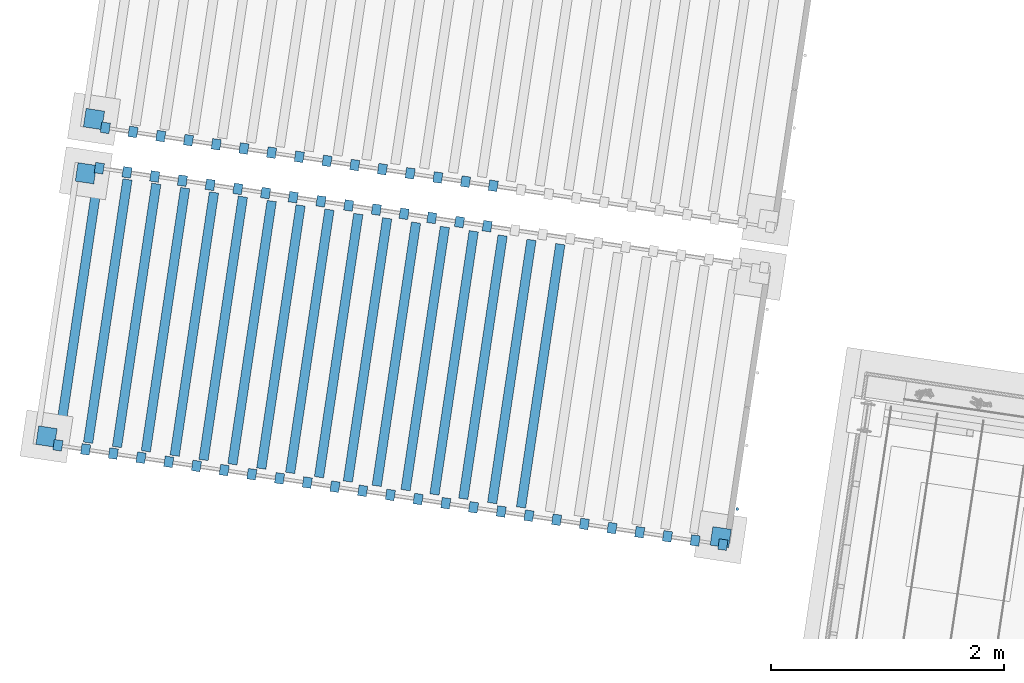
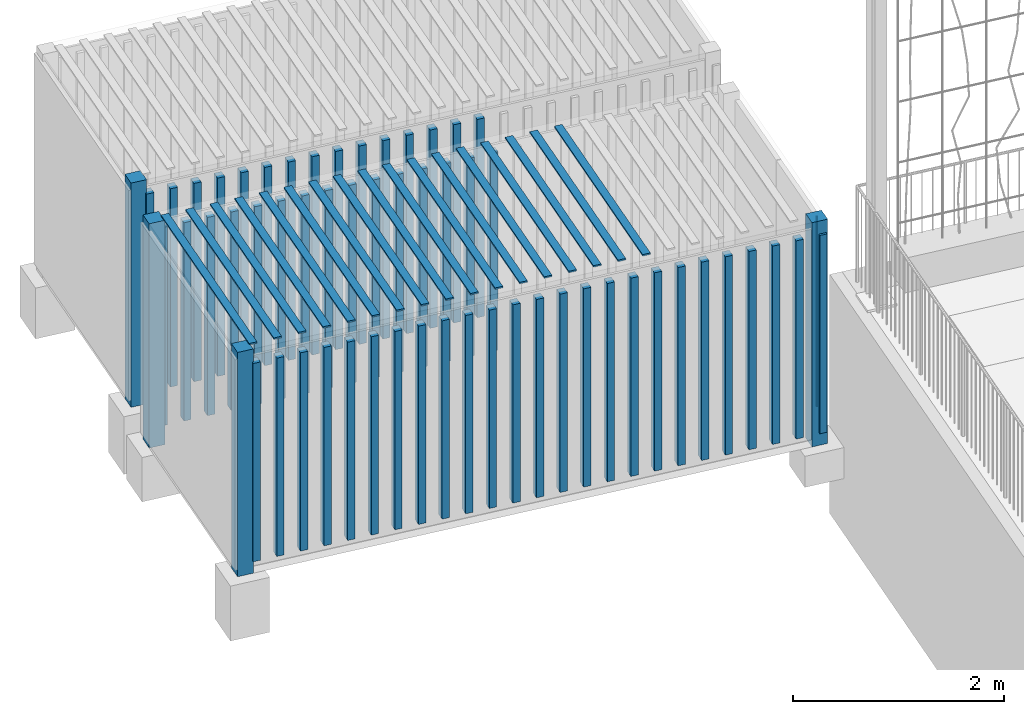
# One storey, part 25 of 142: 77 members, 2 elements without a shape of their own.
"""IFC4 building model written with IfcOpenShell, lengths in metres."""

from ifc_helpers import new_model, si_unit, direction, frame, origin_with_axes, place, context, subcontext, project, spatial, polyline, circle, outline, extrude, material, material_profile, profile_set, profile_usage, type_object, element, aggregate, save


model = new_model("IFC4")

# Units and contexts
model_context = context("Model", 3, precision=1e-05, world=origin_with_axes(), true_north=direction((0.0, 1.0)))
body_context = subcontext(model_context, "Body", "Model", "MODEL_VIEW")
ifc_project = project(units=[si_unit("VOLUMEUNIT", "CUBIC_METRE"), si_unit("LENGTHUNIT", "METRE"), si_unit("AREAUNIT", "SQUARE_METRE")], contexts=[model_context])

# Site, building, storey
site_placement = place(None, origin_with_axes())
site = spatial("IfcSite", under=ifc_project, at=site_placement, Name="Lares · Rua das Mercês · artigo 4771")
building_placement = place(site_placement, frame((12.0, 10.2, 13.9), z_axis=(0.0, 0.0, 1.0), x_axis=(0.989015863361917, -0.147809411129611, 0.0)))
building = spatial("IfcBuilding", under=site, at=building_placement, Name="Casa Sobreposta")
storey_placement = place(building_placement, origin_with_axes())
storey = spatial("IfcBuildingStorey", under=building, at=storey_placement, Name="00 · Habitação e estacionamento", Elevation=13.9)

# Assembly, members
assembly_1_placement = place(storey_placement, origin_with_axes())
assembly_1 = element("IfcElementAssembly", 1, at=assembly_1_placement, inside=storey, ObjectType="EXISTING_SHIPPING_CONTAINER", PredefinedType="USERDEFINED")
ifc_material_1 = material(Name="Aço galvanizado / Stahl verzinkt", Category="steel")
ifc_material_profile = material_profile(ifc_material_1, circle(Radius=0.0125))
ifc_profile_set = profile_set([ifc_material_profile], Name="D0.025")
ifc_profile_usage = profile_usage(ifc_profile_set)
member_type = type_object("IfcMemberType", Name="D0.025 / galvanized", PredefinedType="NOTDEFINED", material=ifc_profile_set)
member_1_placement = place(assembly_1_placement, frame((-6.975, 5.34, -0.394226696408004), z_axis=(0.0, 0.0, 1.0), x_axis=(1.0, 0.0, 0.0)))
member_1 = element("IfcMember", 2, at=member_1_placement, type_object=member_type, material=ifc_profile_usage, Name="Contentor · varão de fecho", context=body_context, shape_type="SweptSolid", body=[
    extrude(circle(Radius=0.0125), origin_with_axes(), (0.0, 0.0, 1.0), 2.2),
])
ifc_material_2 = material(Name="Contentor · pintura 1", Category="steel")
member_2_placement = place(assembly_1_placement, frame((0.0, 0.0, -0.594226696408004), z_axis=(0.0, 0.0, 1.0), x_axis=(1.0, 0.0, 0.0)))
member_2 = element("IfcMember", 3, at=member_2_placement, material=ifc_material_2, Name="Contentor · canto", context=body_context, shape_type="SweptSolid", body=[
    extrude(outline(polyline([(-12.84, 5.0), (-12.84, 5.16), (-13.0, 5.16), (-13.0, 5.0), (-12.84, 5.0)])), origin_with_axes(), (0.0, 0.0, 1.0), 2.59),
])
member_3_placement = place(assembly_1_placement, frame((0.0, 0.0, -0.594226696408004), z_axis=(0.0, 0.0, 1.0), x_axis=(1.0, 0.0, 0.0)))
member_3 = element("IfcMember", 4, at=member_3_placement, material=ifc_material_2, Name="Contentor · canto", context=body_context, shape_type="SweptSolid", body=[
    extrude(outline(polyline([(-12.84, 7.28), (-12.84, 7.44), (-13.0, 7.44), (-13.0, 7.28), (-12.84, 7.28)])), origin_with_axes(), (0.0, 0.0, 1.0), 2.59),
])
member_4_placement = place(assembly_1_placement, frame((0.0, 0.0, -0.594226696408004), z_axis=(0.0, 0.0, 1.0), x_axis=(1.0, 0.0, 0.0)))
member_4 = element("IfcMember", 5, at=member_4_placement, material=ifc_material_2, Name="Contentor · canto", context=body_context, shape_type="SweptSolid", body=[
    extrude(outline(polyline([(-7.0, 5.0), (-7.0, 5.16), (-7.16, 5.16), (-7.16, 5.0), (-7.0, 5.0)])), origin_with_axes(), (0.0, 0.0, 1.0), 2.59),
])
member_5_placement = place(assembly_1_placement, frame((0.0, 0.0, -0.444226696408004), z_axis=(0.0, 0.0, 1.0), x_axis=(1.0, 0.0, 0.0)))
member_5 = element("IfcMember", 6, at=member_5_placement, material=ifc_material_2, Name="Contentor · nervura lateral", context=body_context, shape_type="SweptSolid", body=[
    extrude(outline(polyline([(-12.775, 4.975), (-12.775, 5.065), (-12.85, 5.065), (-12.85, 4.975), (-12.775, 4.975)])), origin_with_axes(), (0.0, 0.0, 1.0), 2.29),
])
member_6_placement = place(assembly_1_placement, frame((0.0, 0.0, -0.444226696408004), z_axis=(0.0, 0.0, 1.0), x_axis=(1.0, 0.0, 0.0)))
member_6 = element("IfcMember", 7, at=member_6_placement, material=ifc_material_2, Name="Contentor · nervura lateral", context=body_context, shape_type="SweptSolid", body=[
    extrude(outline(polyline([(-12.535, 4.975), (-12.535, 5.065), (-12.61, 5.065), (-12.61, 4.975), (-12.535, 4.975)])), origin_with_axes(), (0.0, 0.0, 1.0), 2.29),
])
member_7_placement = place(assembly_1_placement, frame((0.0, 0.0, -0.444226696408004), z_axis=(0.0, 0.0, 1.0), x_axis=(1.0, 0.0, 0.0)))
member_7 = element("IfcMember", 8, at=member_7_placement, material=ifc_material_2, Name="Contentor · nervura lateral", context=body_context, shape_type="SweptSolid", body=[
    extrude(outline(polyline([(-12.295, 4.975), (-12.295, 5.065), (-12.37, 5.065), (-12.37, 4.975), (-12.295, 4.975)])), origin_with_axes(), (0.0, 0.0, 1.0), 2.29),
])
member_8_placement = place(assembly_1_placement, frame((0.0, 0.0, -0.444226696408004), z_axis=(0.0, 0.0, 1.0), x_axis=(1.0, 0.0, 0.0)))
member_8 = element("IfcMember", 9, at=member_8_placement, material=ifc_material_2, Name="Contentor · nervura lateral", context=body_context, shape_type="SweptSolid", body=[
    extrude(outline(polyline([(-12.055, 4.975), (-12.055, 5.065), (-12.13, 5.065), (-12.13, 4.975), (-12.055, 4.975)])), origin_with_axes(), (0.0, 0.0, 1.0), 2.29),
])
member_9_placement = place(assembly_1_placement, frame((0.0, 0.0, -0.444226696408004), z_axis=(0.0, 0.0, 1.0), x_axis=(1.0, 0.0, 0.0)))
member_9 = element("IfcMember", 10, at=member_9_placement, material=ifc_material_2, Name="Contentor · nervura lateral", context=body_context, shape_type="SweptSolid", body=[
    extrude(outline(polyline([(-11.815, 4.975), (-11.815, 5.065), (-11.89, 5.065), (-11.89, 4.975), (-11.815, 4.975)])), origin_with_axes(), (0.0, 0.0, 1.0), 2.29),
])
member_10_placement = place(assembly_1_placement, frame((0.0, 0.0, -0.444226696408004), z_axis=(0.0, 0.0, 1.0), x_axis=(1.0, 0.0, 0.0)))
member_10 = element("IfcMember", 11, at=member_10_placement, material=ifc_material_2, Name="Contentor · nervura lateral", context=body_context, shape_type="SweptSolid", body=[
    extrude(outline(polyline([(-11.575, 4.975), (-11.575, 5.065), (-11.65, 5.065), (-11.65, 4.975), (-11.575, 4.975)])), origin_with_axes(), (0.0, 0.0, 1.0), 2.29),
])
member_11_placement = place(assembly_1_placement, frame((0.0, 0.0, -0.444226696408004), z_axis=(0.0, 0.0, 1.0), x_axis=(1.0, 0.0, 0.0)))
member_11 = element("IfcMember", 12, at=member_11_placement, material=ifc_material_2, Name="Contentor · nervura lateral", context=body_context, shape_type="SweptSolid", body=[
    extrude(outline(polyline([(-11.335, 4.975), (-11.335, 5.065), (-11.41, 5.065), (-11.41, 4.975), (-11.335, 4.975)])), origin_with_axes(), (0.0, 0.0, 1.0), 2.29),
])
member_12_placement = place(assembly_1_placement, frame((0.0, 0.0, -0.444226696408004), z_axis=(0.0, 0.0, 1.0), x_axis=(1.0, 0.0, 0.0)))
member_12 = element("IfcMember", 13, at=member_12_placement, material=ifc_material_2, Name="Contentor · nervura lateral", context=body_context, shape_type="SweptSolid", body=[
    extrude(outline(polyline([(-11.095, 4.975), (-11.095, 5.065), (-11.17, 5.065), (-11.17, 4.975), (-11.095, 4.975)])), origin_with_axes(), (0.0, 0.0, 1.0), 2.29),
])
member_13_placement = place(assembly_1_placement, frame((0.0, 0.0, -0.444226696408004), z_axis=(0.0, 0.0, 1.0), x_axis=(1.0, 0.0, 0.0)))
member_13 = element("IfcMember", 14, at=member_13_placement, material=ifc_material_2, Name="Contentor · nervura lateral", context=body_context, shape_type="SweptSolid", body=[
    extrude(outline(polyline([(-10.855, 4.975), (-10.855, 5.065), (-10.93, 5.065), (-10.93, 4.975), (-10.855, 4.975)])), origin_with_axes(), (0.0, 0.0, 1.0), 2.29),
])
member_14_placement = place(assembly_1_placement, frame((0.0, 0.0, -0.444226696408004), z_axis=(0.0, 0.0, 1.0), x_axis=(1.0, 0.0, 0.0)))
member_14 = element("IfcMember", 15, at=member_14_placement, material=ifc_material_2, Name="Contentor · nervura lateral", context=body_context, shape_type="SweptSolid", body=[
    extrude(outline(polyline([(-10.615, 4.975), (-10.615, 5.065), (-10.69, 5.065), (-10.69, 4.975), (-10.615, 4.975)])), origin_with_axes(), (0.0, 0.0, 1.0), 2.29),
])
member_15_placement = place(assembly_1_placement, frame((0.0, 0.0, -0.444226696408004), z_axis=(0.0, 0.0, 1.0), x_axis=(1.0, 0.0, 0.0)))
member_15 = element("IfcMember", 16, at=member_15_placement, material=ifc_material_2, Name="Contentor · nervura lateral", context=body_context, shape_type="SweptSolid", body=[
    extrude(outline(polyline([(-10.375, 4.975), (-10.375, 5.065), (-10.45, 5.065), (-10.45, 4.975), (-10.375, 4.975)])), origin_with_axes(), (0.0, 0.0, 1.0), 2.29),
])
member_16_placement = place(assembly_1_placement, frame((0.0, 0.0, -0.444226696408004), z_axis=(0.0, 0.0, 1.0), x_axis=(1.0, 0.0, 0.0)))
member_16 = element("IfcMember", 17, at=member_16_placement, material=ifc_material_2, Name="Contentor · nervura lateral", context=body_context, shape_type="SweptSolid", body=[
    extrude(outline(polyline([(-10.135, 4.975), (-10.135, 5.065), (-10.21, 5.065), (-10.21, 4.975), (-10.135, 4.975)])), origin_with_axes(), (0.0, 0.0, 1.0), 2.29),
])
member_17_placement = place(assembly_1_placement, frame((0.0, 0.0, -0.444226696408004), z_axis=(0.0, 0.0, 1.0), x_axis=(1.0, 0.0, 0.0)))
member_17 = element("IfcMember", 18, at=member_17_placement, material=ifc_material_2, Name="Contentor · nervura lateral", context=body_context, shape_type="SweptSolid", body=[
    extrude(outline(polyline([(-9.895, 4.975), (-9.895, 5.065), (-9.97, 5.065), (-9.97, 4.975), (-9.895, 4.975)])), origin_with_axes(), (0.0, 0.0, 1.0), 2.29),
])
member_18_placement = place(assembly_1_placement, frame((0.0, 0.0, -0.444226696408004), z_axis=(0.0, 0.0, 1.0), x_axis=(1.0, 0.0, 0.0)))
member_18 = element("IfcMember", 19, at=member_18_placement, material=ifc_material_2, Name="Contentor · nervura lateral", context=body_context, shape_type="SweptSolid", body=[
    extrude(outline(polyline([(-9.655, 4.975), (-9.655, 5.065), (-9.73, 5.065), (-9.73, 4.975), (-9.655, 4.975)])), origin_with_axes(), (0.0, 0.0, 1.0), 2.29),
])
member_19_placement = place(assembly_1_placement, frame((0.0, 0.0, -0.444226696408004), z_axis=(0.0, 0.0, 1.0), x_axis=(1.0, 0.0, 0.0)))
member_19 = element("IfcMember", 20, at=member_19_placement, material=ifc_material_2, Name="Contentor · nervura lateral", context=body_context, shape_type="SweptSolid", body=[
    extrude(outline(polyline([(-9.415, 4.975), (-9.415, 5.065), (-9.49, 5.065), (-9.49, 4.975), (-9.415, 4.975)])), origin_with_axes(), (0.0, 0.0, 1.0), 2.29),
])
member_20_placement = place(assembly_1_placement, frame((0.0, 0.0, -0.444226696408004), z_axis=(0.0, 0.0, 1.0), x_axis=(1.0, 0.0, 0.0)))
member_20 = element("IfcMember", 21, at=member_20_placement, material=ifc_material_2, Name="Contentor · nervura lateral", context=body_context, shape_type="SweptSolid", body=[
    extrude(outline(polyline([(-9.175, 4.975), (-9.175, 5.065), (-9.25, 5.065), (-9.25, 4.975), (-9.175, 4.975)])), origin_with_axes(), (0.0, 0.0, 1.0), 2.29),
])
member_21_placement = place(assembly_1_placement, frame((0.0, 0.0, -0.444226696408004), z_axis=(0.0, 0.0, 1.0), x_axis=(1.0, 0.0, 0.0)))
member_21 = element("IfcMember", 22, at=member_21_placement, material=ifc_material_2, Name="Contentor · nervura lateral", context=body_context, shape_type="SweptSolid", body=[
    extrude(outline(polyline([(-8.935, 4.975), (-8.935, 5.065), (-9.01, 5.065), (-9.01, 4.975), (-8.935, 4.975)])), origin_with_axes(), (0.0, 0.0, 1.0), 2.29),
])
member_22_placement = place(assembly_1_placement, frame((0.0, 0.0, -0.444226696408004), z_axis=(0.0, 0.0, 1.0), x_axis=(1.0, 0.0, 0.0)))
member_22 = element("IfcMember", 23, at=member_22_placement, material=ifc_material_2, Name="Contentor · nervura lateral", context=body_context, shape_type="SweptSolid", body=[
    extrude(outline(polyline([(-8.695, 4.975), (-8.695, 5.065), (-8.77, 5.065), (-8.77, 4.975), (-8.695, 4.975)])), origin_with_axes(), (0.0, 0.0, 1.0), 2.29),
])
member_23_placement = place(assembly_1_placement, frame((0.0, 0.0, -0.444226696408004), z_axis=(0.0, 0.0, 1.0), x_axis=(1.0, 0.0, 0.0)))
member_23 = element("IfcMember", 24, at=member_23_placement, material=ifc_material_2, Name="Contentor · nervura lateral", context=body_context, shape_type="SweptSolid", body=[
    extrude(outline(polyline([(-8.455, 4.975), (-8.455, 5.065), (-8.53, 5.065), (-8.53, 4.975), (-8.455, 4.975)])), origin_with_axes(), (0.0, 0.0, 1.0), 2.29),
])
member_24_placement = place(assembly_1_placement, frame((0.0, 0.0, -0.444226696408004), z_axis=(0.0, 0.0, 1.0), x_axis=(1.0, 0.0, 0.0)))
member_24 = element("IfcMember", 25, at=member_24_placement, material=ifc_material_2, Name="Contentor · nervura lateral", context=body_context, shape_type="SweptSolid", body=[
    extrude(outline(polyline([(-8.215, 4.975), (-8.215, 5.065), (-8.29, 5.065), (-8.29, 4.975), (-8.215, 4.975)])), origin_with_axes(), (0.0, 0.0, 1.0), 2.29),
])
member_25_placement = place(assembly_1_placement, frame((0.0, 0.0, -0.444226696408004), z_axis=(0.0, 0.0, 1.0), x_axis=(1.0, 0.0, 0.0)))
member_25 = element("IfcMember", 26, at=member_25_placement, material=ifc_material_2, Name="Contentor · nervura lateral", context=body_context, shape_type="SweptSolid", body=[
    extrude(outline(polyline([(-7.975, 4.975), (-7.975, 5.065), (-8.05, 5.065), (-8.05, 4.975), (-7.975, 4.975)])), origin_with_axes(), (0.0, 0.0, 1.0), 2.29),
])
member_26_placement = place(assembly_1_placement, frame((0.0, 0.0, -0.444226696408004), z_axis=(0.0, 0.0, 1.0), x_axis=(1.0, 0.0, 0.0)))
member_26 = element("IfcMember", 27, at=member_26_placement, material=ifc_material_2, Name="Contentor · nervura lateral", context=body_context, shape_type="SweptSolid", body=[
    extrude(outline(polyline([(-7.73499999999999, 4.975), (-7.73499999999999, 5.065), (-7.81, 5.065), (-7.81, 4.975), (-7.73499999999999, 4.975)])), origin_with_axes(), (0.0, 0.0, 1.0), 2.29),
])
member_27_placement = place(assembly_1_placement, frame((0.0, 0.0, -0.444226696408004), z_axis=(0.0, 0.0, 1.0), x_axis=(1.0, 0.0, 0.0)))
member_27 = element("IfcMember", 28, at=member_27_placement, material=ifc_material_2, Name="Contentor · nervura lateral", context=body_context, shape_type="SweptSolid", body=[
    extrude(outline(polyline([(-7.49499999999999, 4.975), (-7.49499999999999, 5.065), (-7.56999999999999, 5.065), (-7.56999999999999, 4.975), (-7.49499999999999, 4.975)])), origin_with_axes(), (0.0, 0.0, 1.0), 2.29),
])
member_28_placement = place(assembly_1_placement, frame((0.0, 0.0, -0.444226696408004), z_axis=(0.0, 0.0, 1.0), x_axis=(1.0, 0.0, 0.0)))
member_28 = element("IfcMember", 29, at=member_28_placement, material=ifc_material_2, Name="Contentor · nervura lateral", context=body_context, shape_type="SweptSolid", body=[
    extrude(outline(polyline([(-7.25499999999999, 4.975), (-7.25499999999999, 5.065), (-7.32999999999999, 5.065), (-7.32999999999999, 4.975), (-7.25499999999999, 4.975)])), origin_with_axes(), (0.0, 0.0, 1.0), 2.29),
])
member_29_placement = place(assembly_1_placement, frame((0.0, 0.0, -0.444226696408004), z_axis=(0.0, 0.0, 1.0), x_axis=(1.0, 0.0, 0.0)))
member_29 = element("IfcMember", 30, at=member_29_placement, material=ifc_material_2, Name="Contentor · nervura lateral", context=body_context, shape_type="SweptSolid", body=[
    extrude(outline(polyline([(-7.01499999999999, 4.975), (-7.01499999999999, 5.065), (-7.08999999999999, 5.065), (-7.08999999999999, 4.975), (-7.01499999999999, 4.975)])), origin_with_axes(), (0.0, 0.0, 1.0), 2.29),
])
member_30_placement = place(assembly_1_placement, frame((0.0, 0.0, -0.444226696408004), z_axis=(0.0, 0.0, 1.0), x_axis=(1.0, 0.0, 0.0)))
member_30 = element("IfcMember", 31, at=member_30_placement, material=ifc_material_2, Name="Contentor · nervura lateral", context=body_context, shape_type="SweptSolid", body=[
    extrude(outline(polyline([(-12.775, 7.375), (-12.775, 7.465), (-12.85, 7.465), (-12.85, 7.375), (-12.775, 7.375)])), origin_with_axes(), (0.0, 0.0, 1.0), 2.29),
])
member_31_placement = place(assembly_1_placement, frame((0.0, 0.0, -0.444226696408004), z_axis=(0.0, 0.0, 1.0), x_axis=(1.0, 0.0, 0.0)))
member_31 = element("IfcMember", 32, at=member_31_placement, material=ifc_material_2, Name="Contentor · nervura lateral", context=body_context, shape_type="SweptSolid", body=[
    extrude(outline(polyline([(-12.535, 7.375), (-12.535, 7.465), (-12.61, 7.465), (-12.61, 7.375), (-12.535, 7.375)])), origin_with_axes(), (0.0, 0.0, 1.0), 2.29),
])
member_32_placement = place(assembly_1_placement, frame((0.0, 0.0, -0.444226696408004), z_axis=(0.0, 0.0, 1.0), x_axis=(1.0, 0.0, 0.0)))
member_32 = element("IfcMember", 33, at=member_32_placement, material=ifc_material_2, Name="Contentor · nervura lateral", context=body_context, shape_type="SweptSolid", body=[
    extrude(outline(polyline([(-12.295, 7.375), (-12.295, 7.465), (-12.37, 7.465), (-12.37, 7.375), (-12.295, 7.375)])), origin_with_axes(), (0.0, 0.0, 1.0), 2.29),
])
member_33_placement = place(assembly_1_placement, frame((0.0, 0.0, -0.444226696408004), z_axis=(0.0, 0.0, 1.0), x_axis=(1.0, 0.0, 0.0)))
member_33 = element("IfcMember", 34, at=member_33_placement, material=ifc_material_2, Name="Contentor · nervura lateral", context=body_context, shape_type="SweptSolid", body=[
    extrude(outline(polyline([(-12.055, 7.375), (-12.055, 7.465), (-12.13, 7.465), (-12.13, 7.375), (-12.055, 7.375)])), origin_with_axes(), (0.0, 0.0, 1.0), 2.29),
])
member_34_placement = place(assembly_1_placement, frame((0.0, 0.0, -0.444226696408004), z_axis=(0.0, 0.0, 1.0), x_axis=(1.0, 0.0, 0.0)))
member_34 = element("IfcMember", 35, at=member_34_placement, material=ifc_material_2, Name="Contentor · nervura lateral", context=body_context, shape_type="SweptSolid", body=[
    extrude(outline(polyline([(-11.815, 7.375), (-11.815, 7.465), (-11.89, 7.465), (-11.89, 7.375), (-11.815, 7.375)])), origin_with_axes(), (0.0, 0.0, 1.0), 2.29),
])
member_35_placement = place(assembly_1_placement, frame((0.0, 0.0, -0.444226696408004), z_axis=(0.0, 0.0, 1.0), x_axis=(1.0, 0.0, 0.0)))
member_35 = element("IfcMember", 36, at=member_35_placement, material=ifc_material_2, Name="Contentor · nervura lateral", context=body_context, shape_type="SweptSolid", body=[
    extrude(outline(polyline([(-11.575, 7.375), (-11.575, 7.465), (-11.65, 7.465), (-11.65, 7.375), (-11.575, 7.375)])), origin_with_axes(), (0.0, 0.0, 1.0), 2.29),
])
member_36_placement = place(assembly_1_placement, frame((0.0, 0.0, -0.444226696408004), z_axis=(0.0, 0.0, 1.0), x_axis=(1.0, 0.0, 0.0)))
member_36 = element("IfcMember", 37, at=member_36_placement, material=ifc_material_2, Name="Contentor · nervura lateral", context=body_context, shape_type="SweptSolid", body=[
    extrude(outline(polyline([(-11.335, 7.375), (-11.335, 7.465), (-11.41, 7.465), (-11.41, 7.375), (-11.335, 7.375)])), origin_with_axes(), (0.0, 0.0, 1.0), 2.29),
])
member_37_placement = place(assembly_1_placement, frame((0.0, 0.0, -0.444226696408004), z_axis=(0.0, 0.0, 1.0), x_axis=(1.0, 0.0, 0.0)))
member_37 = element("IfcMember", 38, at=member_37_placement, material=ifc_material_2, Name="Contentor · nervura lateral", context=body_context, shape_type="SweptSolid", body=[
    extrude(outline(polyline([(-11.095, 7.375), (-11.095, 7.465), (-11.17, 7.465), (-11.17, 7.375), (-11.095, 7.375)])), origin_with_axes(), (0.0, 0.0, 1.0), 2.29),
])
member_38_placement = place(assembly_1_placement, frame((0.0, 0.0, -0.444226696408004), z_axis=(0.0, 0.0, 1.0), x_axis=(1.0, 0.0, 0.0)))
member_38 = element("IfcMember", 39, at=member_38_placement, material=ifc_material_2, Name="Contentor · nervura lateral", context=body_context, shape_type="SweptSolid", body=[
    extrude(outline(polyline([(-10.855, 7.375), (-10.855, 7.465), (-10.93, 7.465), (-10.93, 7.375), (-10.855, 7.375)])), origin_with_axes(), (0.0, 0.0, 1.0), 2.29),
])
member_39_placement = place(assembly_1_placement, frame((0.0, 0.0, -0.444226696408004), z_axis=(0.0, 0.0, 1.0), x_axis=(1.0, 0.0, 0.0)))
member_39 = element("IfcMember", 40, at=member_39_placement, material=ifc_material_2, Name="Contentor · nervura lateral", context=body_context, shape_type="SweptSolid", body=[
    extrude(outline(polyline([(-10.615, 7.375), (-10.615, 7.465), (-10.69, 7.465), (-10.69, 7.375), (-10.615, 7.375)])), origin_with_axes(), (0.0, 0.0, 1.0), 2.29),
])
member_40_placement = place(assembly_1_placement, frame((0.0, 0.0, -0.444226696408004), z_axis=(0.0, 0.0, 1.0), x_axis=(1.0, 0.0, 0.0)))
member_40 = element("IfcMember", 41, at=member_40_placement, material=ifc_material_2, Name="Contentor · nervura lateral", context=body_context, shape_type="SweptSolid", body=[
    extrude(outline(polyline([(-10.375, 7.375), (-10.375, 7.465), (-10.45, 7.465), (-10.45, 7.375), (-10.375, 7.375)])), origin_with_axes(), (0.0, 0.0, 1.0), 2.29),
])
member_41_placement = place(assembly_1_placement, frame((0.0, 0.0, -0.444226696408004), z_axis=(0.0, 0.0, 1.0), x_axis=(1.0, 0.0, 0.0)))
member_41 = element("IfcMember", 42, at=member_41_placement, material=ifc_material_2, Name="Contentor · nervura lateral", context=body_context, shape_type="SweptSolid", body=[
    extrude(outline(polyline([(-10.135, 7.375), (-10.135, 7.465), (-10.21, 7.465), (-10.21, 7.375), (-10.135, 7.375)])), origin_with_axes(), (0.0, 0.0, 1.0), 2.29),
])
member_42_placement = place(assembly_1_placement, frame((0.0, 0.0, -0.444226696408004), z_axis=(0.0, 0.0, 1.0), x_axis=(1.0, 0.0, 0.0)))
member_42 = element("IfcMember", 43, at=member_42_placement, material=ifc_material_2, Name="Contentor · nervura lateral", context=body_context, shape_type="SweptSolid", body=[
    extrude(outline(polyline([(-9.895, 7.375), (-9.895, 7.465), (-9.97, 7.465), (-9.97, 7.375), (-9.895, 7.375)])), origin_with_axes(), (0.0, 0.0, 1.0), 2.29),
])
member_43_placement = place(assembly_1_placement, frame((0.0, 0.0, -0.444226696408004), z_axis=(0.0, 0.0, 1.0), x_axis=(1.0, 0.0, 0.0)))
member_43 = element("IfcMember", 44, at=member_43_placement, material=ifc_material_2, Name="Contentor · nervura lateral", context=body_context, shape_type="SweptSolid", body=[
    extrude(outline(polyline([(-9.655, 7.375), (-9.655, 7.465), (-9.73, 7.465), (-9.73, 7.375), (-9.655, 7.375)])), origin_with_axes(), (0.0, 0.0, 1.0), 2.29),
])
member_44_placement = place(assembly_1_placement, frame((0.0, 0.0, -0.444226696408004), z_axis=(0.0, 0.0, 1.0), x_axis=(1.0, 0.0, 0.0)))
member_44 = element("IfcMember", 45, at=member_44_placement, material=ifc_material_2, Name="Contentor · nervura lateral", context=body_context, shape_type="SweptSolid", body=[
    extrude(outline(polyline([(-9.415, 7.375), (-9.415, 7.465), (-9.49, 7.465), (-9.49, 7.375), (-9.415, 7.375)])), origin_with_axes(), (0.0, 0.0, 1.0), 2.29),
])
member_45_placement = place(assembly_1_placement, frame((0.0, 0.0, 1.990773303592), z_axis=(0.0, 0.0, 1.0), x_axis=(1.0, 0.0, 0.0)))
member_45 = element("IfcMember", 46, at=member_45_placement, material=ifc_material_2, Name="Contentor · nervura cobertura", context=body_context, shape_type="SweptSolid", body=[
    extrude(outline(polyline([(-12.77, 5.08), (-12.77, 7.36), (-12.85, 7.36), (-12.85, 5.08), (-12.77, 5.08)])), origin_with_axes(), (0.0, 0.0, 1.0), 0.018),
])
member_46_placement = place(assembly_1_placement, frame((0.0, 0.0, 1.990773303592), z_axis=(0.0, 0.0, 1.0), x_axis=(1.0, 0.0, 0.0)))
member_46 = element("IfcMember", 47, at=member_46_placement, material=ifc_material_2, Name="Contentor · nervura cobertura", context=body_context, shape_type="SweptSolid", body=[
    extrude(outline(polyline([(-12.52, 5.08), (-12.52, 7.36), (-12.6, 7.36), (-12.6, 5.08), (-12.52, 5.08)])), origin_with_axes(), (0.0, 0.0, 1.0), 0.018),
])
member_47_placement = place(assembly_1_placement, frame((0.0, 0.0, 1.990773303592), z_axis=(0.0, 0.0, 1.0), x_axis=(1.0, 0.0, 0.0)))
member_47 = element("IfcMember", 48, at=member_47_placement, material=ifc_material_2, Name="Contentor · nervura cobertura", context=body_context, shape_type="SweptSolid", body=[
    extrude(outline(polyline([(-12.27, 5.08), (-12.27, 7.36), (-12.35, 7.36), (-12.35, 5.08), (-12.27, 5.08)])), origin_with_axes(), (0.0, 0.0, 1.0), 0.018),
])
member_48_placement = place(assembly_1_placement, frame((0.0, 0.0, 1.990773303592), z_axis=(0.0, 0.0, 1.0), x_axis=(1.0, 0.0, 0.0)))
member_48 = element("IfcMember", 49, at=member_48_placement, material=ifc_material_2, Name="Contentor · nervura cobertura", context=body_context, shape_type="SweptSolid", body=[
    extrude(outline(polyline([(-12.02, 5.08), (-12.02, 7.36), (-12.1, 7.36), (-12.1, 5.08), (-12.02, 5.08)])), origin_with_axes(), (0.0, 0.0, 1.0), 0.018),
])
member_49_placement = place(assembly_1_placement, frame((0.0, 0.0, 1.990773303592), z_axis=(0.0, 0.0, 1.0), x_axis=(1.0, 0.0, 0.0)))
member_49 = element("IfcMember", 50, at=member_49_placement, material=ifc_material_2, Name="Contentor · nervura cobertura", context=body_context, shape_type="SweptSolid", body=[
    extrude(outline(polyline([(-11.77, 5.08), (-11.77, 7.36), (-11.85, 7.36), (-11.85, 5.08), (-11.77, 5.08)])), origin_with_axes(), (0.0, 0.0, 1.0), 0.018),
])
member_50_placement = place(assembly_1_placement, frame((0.0, 0.0, 1.990773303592), z_axis=(0.0, 0.0, 1.0), x_axis=(1.0, 0.0, 0.0)))
member_50 = element("IfcMember", 51, at=member_50_placement, material=ifc_material_2, Name="Contentor · nervura cobertura", context=body_context, shape_type="SweptSolid", body=[
    extrude(outline(polyline([(-11.52, 5.08), (-11.52, 7.36), (-11.6, 7.36), (-11.6, 5.08), (-11.52, 5.08)])), origin_with_axes(), (0.0, 0.0, 1.0), 0.018),
])
member_51_placement = place(assembly_1_placement, frame((0.0, 0.0, 1.990773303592), z_axis=(0.0, 0.0, 1.0), x_axis=(1.0, 0.0, 0.0)))
member_51 = element("IfcMember", 52, at=member_51_placement, material=ifc_material_2, Name="Contentor · nervura cobertura", context=body_context, shape_type="SweptSolid", body=[
    extrude(outline(polyline([(-11.27, 5.08), (-11.27, 7.36), (-11.35, 7.36), (-11.35, 5.08), (-11.27, 5.08)])), origin_with_axes(), (0.0, 0.0, 1.0), 0.018),
])
member_52_placement = place(assembly_1_placement, frame((0.0, 0.0, 1.990773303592), z_axis=(0.0, 0.0, 1.0), x_axis=(1.0, 0.0, 0.0)))
member_52 = element("IfcMember", 53, at=member_52_placement, material=ifc_material_2, Name="Contentor · nervura cobertura", context=body_context, shape_type="SweptSolid", body=[
    extrude(outline(polyline([(-11.02, 5.08), (-11.02, 7.36), (-11.1, 7.36), (-11.1, 5.08), (-11.02, 5.08)])), origin_with_axes(), (0.0, 0.0, 1.0), 0.018),
])
member_53_placement = place(assembly_1_placement, frame((0.0, 0.0, 1.990773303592), z_axis=(0.0, 0.0, 1.0), x_axis=(1.0, 0.0, 0.0)))
member_53 = element("IfcMember", 54, at=member_53_placement, material=ifc_material_2, Name="Contentor · nervura cobertura", context=body_context, shape_type="SweptSolid", body=[
    extrude(outline(polyline([(-10.77, 5.08), (-10.77, 7.36), (-10.85, 7.36), (-10.85, 5.08), (-10.77, 5.08)])), origin_with_axes(), (0.0, 0.0, 1.0), 0.018),
])
member_54_placement = place(assembly_1_placement, frame((0.0, 0.0, 1.990773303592), z_axis=(0.0, 0.0, 1.0), x_axis=(1.0, 0.0, 0.0)))
member_54 = element("IfcMember", 55, at=member_54_placement, material=ifc_material_2, Name="Contentor · nervura cobertura", context=body_context, shape_type="SweptSolid", body=[
    extrude(outline(polyline([(-10.52, 5.08), (-10.52, 7.36), (-10.6, 7.36), (-10.6, 5.08), (-10.52, 5.08)])), origin_with_axes(), (0.0, 0.0, 1.0), 0.018),
])
member_55_placement = place(assembly_1_placement, frame((0.0, 0.0, 1.990773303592), z_axis=(0.0, 0.0, 1.0), x_axis=(1.0, 0.0, 0.0)))
member_55 = element("IfcMember", 56, at=member_55_placement, material=ifc_material_2, Name="Contentor · nervura cobertura", context=body_context, shape_type="SweptSolid", body=[
    extrude(outline(polyline([(-10.27, 5.08), (-10.27, 7.36), (-10.35, 7.36), (-10.35, 5.08), (-10.27, 5.08)])), origin_with_axes(), (0.0, 0.0, 1.0), 0.018),
])
member_56_placement = place(assembly_1_placement, frame((0.0, 0.0, 1.990773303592), z_axis=(0.0, 0.0, 1.0), x_axis=(1.0, 0.0, 0.0)))
member_56 = element("IfcMember", 57, at=member_56_placement, material=ifc_material_2, Name="Contentor · nervura cobertura", context=body_context, shape_type="SweptSolid", body=[
    extrude(outline(polyline([(-10.02, 5.08), (-10.02, 7.36), (-10.1, 7.36), (-10.1, 5.08), (-10.02, 5.08)])), origin_with_axes(), (0.0, 0.0, 1.0), 0.018),
])
member_57_placement = place(assembly_1_placement, frame((0.0, 0.0, 1.990773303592), z_axis=(0.0, 0.0, 1.0), x_axis=(1.0, 0.0, 0.0)))
member_57 = element("IfcMember", 58, at=member_57_placement, material=ifc_material_2, Name="Contentor · nervura cobertura", context=body_context, shape_type="SweptSolid", body=[
    extrude(outline(polyline([(-9.77, 5.08), (-9.77, 7.36), (-9.85, 7.36), (-9.85, 5.08), (-9.77, 5.08)])), origin_with_axes(), (0.0, 0.0, 1.0), 0.018),
])
member_58_placement = place(assembly_1_placement, frame((0.0, 0.0, 1.990773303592), z_axis=(0.0, 0.0, 1.0), x_axis=(1.0, 0.0, 0.0)))
member_58 = element("IfcMember", 59, at=member_58_placement, material=ifc_material_2, Name="Contentor · nervura cobertura", context=body_context, shape_type="SweptSolid", body=[
    extrude(outline(polyline([(-9.52, 5.08), (-9.52, 7.36), (-9.6, 7.36), (-9.6, 5.08), (-9.52, 5.08)])), origin_with_axes(), (0.0, 0.0, 1.0), 0.018),
])
member_59_placement = place(assembly_1_placement, frame((0.0, 0.0, 1.990773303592), z_axis=(0.0, 0.0, 1.0), x_axis=(1.0, 0.0, 0.0)))
member_59 = element("IfcMember", 60, at=member_59_placement, material=ifc_material_2, Name="Contentor · nervura cobertura", context=body_context, shape_type="SweptSolid", body=[
    extrude(outline(polyline([(-9.27, 5.08), (-9.27, 7.36), (-9.35, 7.36), (-9.35, 5.08), (-9.27, 5.08)])), origin_with_axes(), (0.0, 0.0, 1.0), 0.018),
])
member_60_placement = place(assembly_1_placement, frame((0.0, 0.0, 1.990773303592), z_axis=(0.0, 0.0, 1.0), x_axis=(1.0, 0.0, 0.0)))
member_60 = element("IfcMember", 61, at=member_60_placement, material=ifc_material_2, Name="Contentor · nervura cobertura", context=body_context, shape_type="SweptSolid", body=[
    extrude(outline(polyline([(-9.02, 5.08), (-9.02, 7.36), (-9.1, 7.36), (-9.1, 5.08), (-9.02, 5.08)])), origin_with_axes(), (0.0, 0.0, 1.0), 0.018),
])
member_61_placement = place(assembly_1_placement, frame((0.0, 0.0, 1.990773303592), z_axis=(0.0, 0.0, 1.0), x_axis=(1.0, 0.0, 0.0)))
member_61 = element("IfcMember", 62, at=member_61_placement, material=ifc_material_2, Name="Contentor · nervura cobertura", context=body_context, shape_type="SweptSolid", body=[
    extrude(outline(polyline([(-8.77, 5.08), (-8.77, 7.36), (-8.85, 7.36), (-8.85, 5.08), (-8.77, 5.08)])), origin_with_axes(), (0.0, 0.0, 1.0), 0.018),
])
aggregate(assembly_1, [member_2, member_3, member_4, member_5, member_6, member_7, member_8, member_9, member_10, member_11, member_12, member_13, member_14, member_15, member_16, member_17, member_18, member_19, member_20, member_21, member_22, member_23, member_24, member_25, member_26, member_27, member_28, member_29, member_30, member_31, member_32, member_33, member_34, member_35, member_36, member_37, member_38, member_39, member_40, member_41, member_42, member_43, member_44, member_1, member_45, member_46, member_47, member_48, member_49, member_50, member_51, member_52, member_53, member_54, member_55, member_56, member_57, member_58, member_59, member_60, member_61])

assembly_2_placement = place(storey_placement, origin_with_axes())
assembly_2 = element("IfcElementAssembly", 63, at=assembly_2_placement, inside=storey, ObjectType="EXISTING_SHIPPING_CONTAINER", PredefinedType="USERDEFINED")
ifc_material_3 = material(Name="Contentor · pintura 2", Category="steel")
member_62_placement = place(assembly_2_placement, frame((0.0, 0.0, -0.429831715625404), z_axis=(0.0, 0.0, 1.0), x_axis=(1.0, 0.0, 0.0)))
member_62 = element("IfcMember", 64, at=member_62_placement, material=ifc_material_3, Name="Contentor · canto", context=body_context, shape_type="SweptSolid", body=[
    extrude(outline(polyline([(-12.84, 7.75), (-12.84, 7.91), (-13.0, 7.91), (-13.0, 7.75), (-12.84, 7.75)])), origin_with_axes(), (0.0, 0.0, 1.0), 2.59),
])
member_63_placement = place(assembly_2_placement, frame((0.0, 0.0, -0.279831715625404), z_axis=(0.0, 0.0, 1.0), x_axis=(1.0, 0.0, 0.0)))
member_63 = element("IfcMember", 65, at=member_63_placement, material=ifc_material_3, Name="Contentor · nervura lateral", context=body_context, shape_type="SweptSolid", body=[
    extrude(outline(polyline([(-12.775, 7.725), (-12.775, 7.815), (-12.85, 7.815), (-12.85, 7.725), (-12.775, 7.725)])), origin_with_axes(), (0.0, 0.0, 1.0), 2.29),
])
member_64_placement = place(assembly_2_placement, frame((0.0, 0.0, -0.279831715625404), z_axis=(0.0, 0.0, 1.0), x_axis=(1.0, 0.0, 0.0)))
member_64 = element("IfcMember", 66, at=member_64_placement, material=ifc_material_3, Name="Contentor · nervura lateral", context=body_context, shape_type="SweptSolid", body=[
    extrude(outline(polyline([(-12.535, 7.725), (-12.535, 7.815), (-12.61, 7.815), (-12.61, 7.725), (-12.535, 7.725)])), origin_with_axes(), (0.0, 0.0, 1.0), 2.29),
])
member_65_placement = place(assembly_2_placement, frame((0.0, 0.0, -0.279831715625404), z_axis=(0.0, 0.0, 1.0), x_axis=(1.0, 0.0, 0.0)))
member_65 = element("IfcMember", 67, at=member_65_placement, material=ifc_material_3, Name="Contentor · nervura lateral", context=body_context, shape_type="SweptSolid", body=[
    extrude(outline(polyline([(-12.295, 7.725), (-12.295, 7.815), (-12.37, 7.815), (-12.37, 7.725), (-12.295, 7.725)])), origin_with_axes(), (0.0, 0.0, 1.0), 2.29),
])
member_66_placement = place(assembly_2_placement, frame((0.0, 0.0, -0.279831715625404), z_axis=(0.0, 0.0, 1.0), x_axis=(1.0, 0.0, 0.0)))
member_66 = element("IfcMember", 68, at=member_66_placement, material=ifc_material_3, Name="Contentor · nervura lateral", context=body_context, shape_type="SweptSolid", body=[
    extrude(outline(polyline([(-12.055, 7.725), (-12.055, 7.815), (-12.13, 7.815), (-12.13, 7.725), (-12.055, 7.725)])), origin_with_axes(), (0.0, 0.0, 1.0), 2.29),
])
member_67_placement = place(assembly_2_placement, frame((0.0, 0.0, -0.279831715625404), z_axis=(0.0, 0.0, 1.0), x_axis=(1.0, 0.0, 0.0)))
member_67 = element("IfcMember", 69, at=member_67_placement, material=ifc_material_3, Name="Contentor · nervura lateral", context=body_context, shape_type="SweptSolid", body=[
    extrude(outline(polyline([(-11.815, 7.725), (-11.815, 7.815), (-11.89, 7.815), (-11.89, 7.725), (-11.815, 7.725)])), origin_with_axes(), (0.0, 0.0, 1.0), 2.29),
])
member_68_placement = place(assembly_2_placement, frame((0.0, 0.0, -0.279831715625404), z_axis=(0.0, 0.0, 1.0), x_axis=(1.0, 0.0, 0.0)))
member_68 = element("IfcMember", 70, at=member_68_placement, material=ifc_material_3, Name="Contentor · nervura lateral", context=body_context, shape_type="SweptSolid", body=[
    extrude(outline(polyline([(-11.575, 7.725), (-11.575, 7.815), (-11.65, 7.815), (-11.65, 7.725), (-11.575, 7.725)])), origin_with_axes(), (0.0, 0.0, 1.0), 2.29),
])
member_69_placement = place(assembly_2_placement, frame((0.0, 0.0, -0.279831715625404), z_axis=(0.0, 0.0, 1.0), x_axis=(1.0, 0.0, 0.0)))
member_69 = element("IfcMember", 71, at=member_69_placement, material=ifc_material_3, Name="Contentor · nervura lateral", context=body_context, shape_type="SweptSolid", body=[
    extrude(outline(polyline([(-11.335, 7.725), (-11.335, 7.815), (-11.41, 7.815), (-11.41, 7.725), (-11.335, 7.725)])), origin_with_axes(), (0.0, 0.0, 1.0), 2.29),
])
member_70_placement = place(assembly_2_placement, frame((0.0, 0.0, -0.279831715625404), z_axis=(0.0, 0.0, 1.0), x_axis=(1.0, 0.0, 0.0)))
member_70 = element("IfcMember", 72, at=member_70_placement, material=ifc_material_3, Name="Contentor · nervura lateral", context=body_context, shape_type="SweptSolid", body=[
    extrude(outline(polyline([(-11.095, 7.725), (-11.095, 7.815), (-11.17, 7.815), (-11.17, 7.725), (-11.095, 7.725)])), origin_with_axes(), (0.0, 0.0, 1.0), 2.29),
])
member_71_placement = place(assembly_2_placement, frame((0.0, 0.0, -0.279831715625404), z_axis=(0.0, 0.0, 1.0), x_axis=(1.0, 0.0, 0.0)))
member_71 = element("IfcMember", 73, at=member_71_placement, material=ifc_material_3, Name="Contentor · nervura lateral", context=body_context, shape_type="SweptSolid", body=[
    extrude(outline(polyline([(-10.855, 7.725), (-10.855, 7.815), (-10.93, 7.815), (-10.93, 7.725), (-10.855, 7.725)])), origin_with_axes(), (0.0, 0.0, 1.0), 2.29),
])
member_72_placement = place(assembly_2_placement, frame((0.0, 0.0, -0.279831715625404), z_axis=(0.0, 0.0, 1.0), x_axis=(1.0, 0.0, 0.0)))
member_72 = element("IfcMember", 74, at=member_72_placement, material=ifc_material_3, Name="Contentor · nervura lateral", context=body_context, shape_type="SweptSolid", body=[
    extrude(outline(polyline([(-10.615, 7.725), (-10.615, 7.815), (-10.69, 7.815), (-10.69, 7.725), (-10.615, 7.725)])), origin_with_axes(), (0.0, 0.0, 1.0), 2.29),
])
member_73_placement = place(assembly_2_placement, frame((0.0, 0.0, -0.279831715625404), z_axis=(0.0, 0.0, 1.0), x_axis=(1.0, 0.0, 0.0)))
member_73 = element("IfcMember", 75, at=member_73_placement, material=ifc_material_3, Name="Contentor · nervura lateral", context=body_context, shape_type="SweptSolid", body=[
    extrude(outline(polyline([(-10.375, 7.725), (-10.375, 7.815), (-10.45, 7.815), (-10.45, 7.725), (-10.375, 7.725)])), origin_with_axes(), (0.0, 0.0, 1.0), 2.29),
])
member_74_placement = place(assembly_2_placement, frame((0.0, 0.0, -0.279831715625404), z_axis=(0.0, 0.0, 1.0), x_axis=(1.0, 0.0, 0.0)))
member_74 = element("IfcMember", 76, at=member_74_placement, material=ifc_material_3, Name="Contentor · nervura lateral", context=body_context, shape_type="SweptSolid", body=[
    extrude(outline(polyline([(-10.135, 7.725), (-10.135, 7.815), (-10.21, 7.815), (-10.21, 7.725), (-10.135, 7.725)])), origin_with_axes(), (0.0, 0.0, 1.0), 2.29),
])
member_75_placement = place(assembly_2_placement, frame((0.0, 0.0, -0.279831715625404), z_axis=(0.0, 0.0, 1.0), x_axis=(1.0, 0.0, 0.0)))
member_75 = element("IfcMember", 77, at=member_75_placement, material=ifc_material_3, Name="Contentor · nervura lateral", context=body_context, shape_type="SweptSolid", body=[
    extrude(outline(polyline([(-9.895, 7.725), (-9.895, 7.815), (-9.97, 7.815), (-9.97, 7.725), (-9.895, 7.725)])), origin_with_axes(), (0.0, 0.0, 1.0), 2.29),
])
member_76_placement = place(assembly_2_placement, frame((0.0, 0.0, -0.279831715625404), z_axis=(0.0, 0.0, 1.0), x_axis=(1.0, 0.0, 0.0)))
member_76 = element("IfcMember", 78, at=member_76_placement, material=ifc_material_3, Name="Contentor · nervura lateral", context=body_context, shape_type="SweptSolid", body=[
    extrude(outline(polyline([(-9.655, 7.725), (-9.655, 7.815), (-9.73, 7.815), (-9.73, 7.725), (-9.655, 7.725)])), origin_with_axes(), (0.0, 0.0, 1.0), 2.29),
])
member_77_placement = place(assembly_2_placement, frame((0.0, 0.0, -0.279831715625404), z_axis=(0.0, 0.0, 1.0), x_axis=(1.0, 0.0, 0.0)))
member_77 = element("IfcMember", 79, at=member_77_placement, material=ifc_material_3, Name="Contentor · nervura lateral", context=body_context, shape_type="SweptSolid", body=[
    extrude(outline(polyline([(-9.415, 7.725), (-9.415, 7.815), (-9.49, 7.815), (-9.49, 7.725), (-9.415, 7.725)])), origin_with_axes(), (0.0, 0.0, 1.0), 2.29),
])
aggregate(assembly_2, [member_62, member_63, member_64, member_65, member_66, member_67, member_68, member_69, member_70, member_71, member_72, member_73, member_74, member_75, member_76, member_77])

save(model, "model.ifc")
